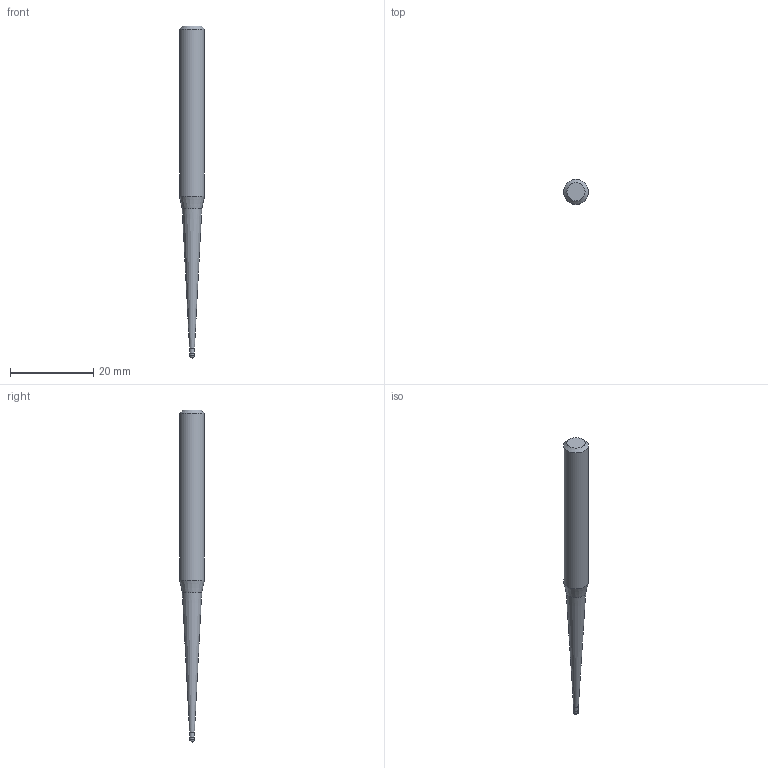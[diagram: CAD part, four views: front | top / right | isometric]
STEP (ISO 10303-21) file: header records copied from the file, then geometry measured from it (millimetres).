
FILE_DESCRIPTION((''),'2;1');
FILE_NAME('C:\Users\nsx150\AppData\Local\Temp\Mastercam 2021\SNAKH10GOD\TEMP.step','2021-10-21T13:32:45',(''),(''),'STEP Write','Mastercam 2021 ... CNC Software, Inc.','');
FILE_SCHEMA(('AUTOMOTIVE_DESIGN'));
Length unit declared in the file: millimetre
Products named in the file (1): None
Bounding box: 6 x 6 x 80 mm (x, y, z)
Volume: 1481.7 mm3; surface area: 1166.4 mm2
Topology: 2 solids, 2 shells, 10 faces, 16 edges, 9 vertices
Faces by surface type: plane 3, cylinder 3, cone 3, sphere 1
Full cylindrical faces by diameter (mm): 1.185 x1, 1.2 x1, 6 x1
Entity records: 232 total; most frequent: DIRECTION 40, CARTESIAN_POINT 28, AXIS2_PLACEMENT_3D 20, ORIENTED_EDGE 16, EDGE_LOOP 16, STYLED_ITEM 13, ADVANCED_FACE 10, FACE_BOUND 9
